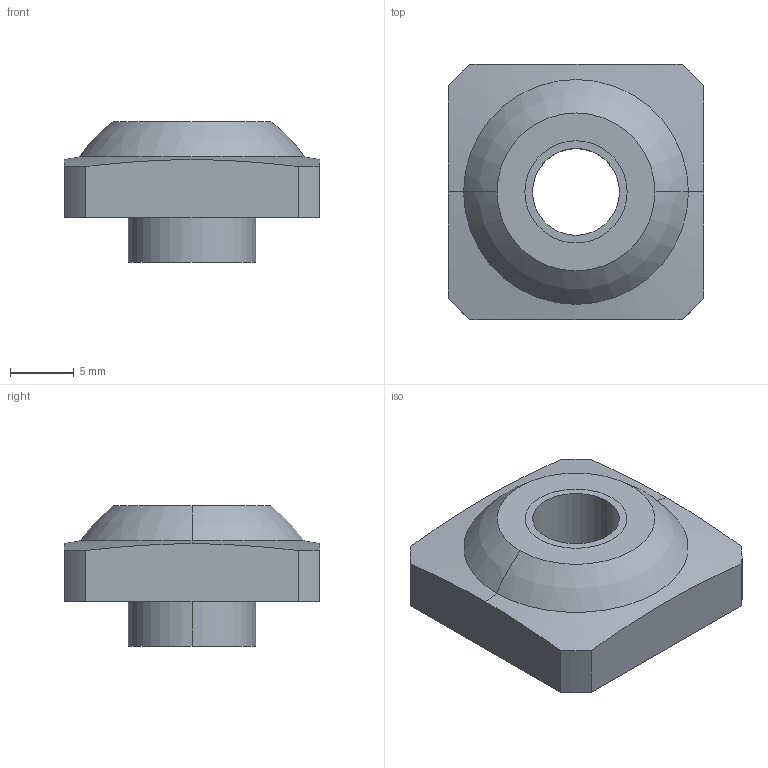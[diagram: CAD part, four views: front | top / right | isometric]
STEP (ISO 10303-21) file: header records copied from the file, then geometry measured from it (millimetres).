
FILE_DESCRIPTION((''),'2;1');
FILE_NAME('DAQ0810','2002-12-27T',('Lipro doo'),('Lipro d.o.o.'),'PRO/ENGINEER BY PARAMETRIC TECHNOLOGY CORPORATION, 2001150','PRO/ENGINEER BY PARAMETRIC TECHNOLOGY CORPORATION, 2001150','');
FILE_SCHEMA(('CONFIG_CONTROL_DESIGN'));
Length unit declared in the file: millimetre
Products named in the file (1): DAQ0810
Bounding box: 20 x 20 x 11 mm (x, y, z)
Volume: 2209.5 mm3; surface area: 1710.2 mm2
Topology: 1 solids, 2 shells, 23 faces, 56 edges, 36 vertices
Faces by surface type: cylinder 10, plane 7, cone 4, sphere 2
Entity records: 770 total; most frequent: CARTESIAN_POINT 164, DIRECTION 126, ORIENTED_EDGE 108, EDGE_CURVE 56, AXIS2_PLACEMENT_3D 52, VERTEX_POINT 36, CIRCLE 28, EDGE_LOOP 26
